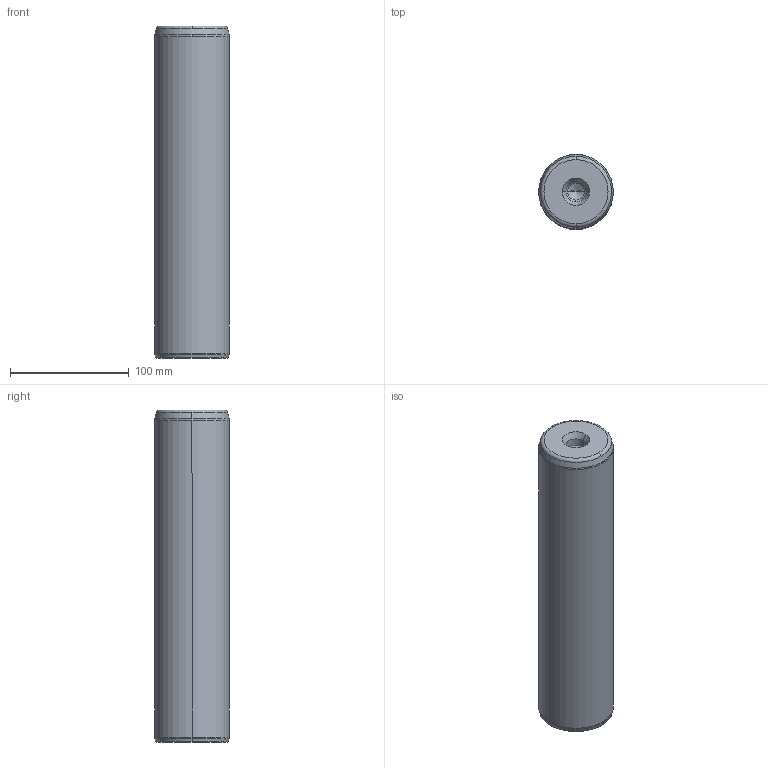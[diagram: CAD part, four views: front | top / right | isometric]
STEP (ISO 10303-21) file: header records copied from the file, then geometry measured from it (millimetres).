
FILE_DESCRIPTION((''),'2;1');
FILE_NAME('P10_063_280.stp','2008-12-23T16:16:53',(''),(''),'Mechanical Desktop 2009','Mechanical Desktop 2009',', , ');
FILE_SCHEMA(('CONFIG_CONTROL_DESIGN'));
Length unit declared in the file: millimetre
Products named in the file (5): Product; ProductAA; blmdl1; ProductA; blmdl1A
Assembly tree (2 placements, depth 3):
  Product
    ProductAA
      blmdl1
  ProductA
  blmdl1A
Bounding box: 63 x 63 x 280 mm (x, y, z)
Volume: 862124.8 mm3; surface area: 62921.1 mm2
Topology: 1 solids, 1 shells, 26 faces, 66 edges, 41 vertices
Faces by surface type: cone 10, torus 8, cylinder 6, plane 2
Entity records: 1012 total; most frequent: DIRECTION 170, CARTESIAN_POINT 134, ORIENTED_EDGE 128, AXIS2_PLACEMENT_3D 77, EDGE_CURVE 64, CIRCLE 48, VERTEX_POINT 41, EDGE_LOOP 27
